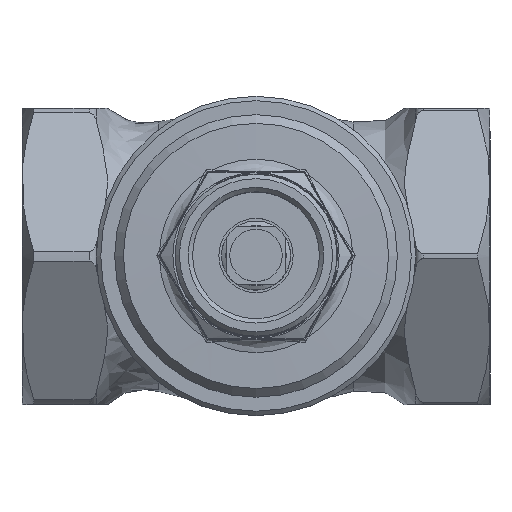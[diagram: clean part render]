
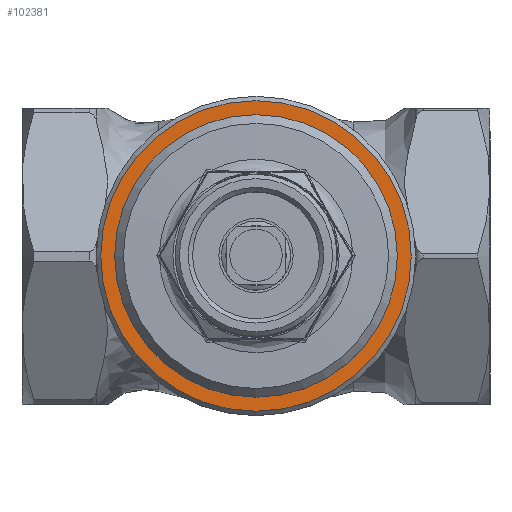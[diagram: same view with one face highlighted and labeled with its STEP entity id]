
A CAD part, top view. The second image highlights one B-rep face of the part: STEP entity #102381.
In plain terms, the highlighted planar face has unit normal (0, 0, 1).
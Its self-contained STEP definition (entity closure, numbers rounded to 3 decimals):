
#54541=CARTESIAN_POINT('',(42.9,0.,36.7));
#54542=VERTEX_POINT('',#54541);
#54543=CARTESIAN_POINT('',(26.75,0.,36.7));
#54544=DIRECTION('',(0.0,0.0,-1.0));
#54545=DIRECTION('',(1.0,0.0,0.0));
#54546=AXIS2_PLACEMENT_3D('',#54543,#54544,#54545);
#54547=CIRCLE('',#54546,16.15);
#54548=EDGE_CURVE('',#54542,#54542,#54547,.T.);
#102355=CARTESIAN_POINT('',(44.5,0.,36.7));
#102356=VERTEX_POINT('',#102355);
#102357=CARTESIAN_POINT('',(26.75,0.,36.7));
#102358=DIRECTION('',(0.0,0.0,-1.0));
#102359=DIRECTION('',(-1.0,0.0,0.0));
#102360=AXIS2_PLACEMENT_3D('',#102357,#102358,#102359);
#102361=CIRCLE('',#102360,17.75);
#102362=EDGE_CURVE('',#102356,#102356,#102361,.T.);
#102370=CARTESIAN_POINT('',(26.726,-0.003,36.7));
#102371=DIRECTION('',(0.0,0.0,1.0));
#102372=DIRECTION('',(1.0,0.0,0.0));
#102373=AXIS2_PLACEMENT_3D('',#102370,#102371,#102372);
#102374=PLANE('',#102373);
#102375=ORIENTED_EDGE('',*,*,#102362,.F.);
#102376=EDGE_LOOP('',(#102375));
#102377=FACE_OUTER_BOUND('',#102376,.T.);
#102378=ORIENTED_EDGE('',*,*,#54548,.T.);
#102379=EDGE_LOOP('',(#102378));
#102380=FACE_BOUND('',#102379,.T.);
#102381=ADVANCED_FACE('',(#102377,#102380),#102374,.T.);
